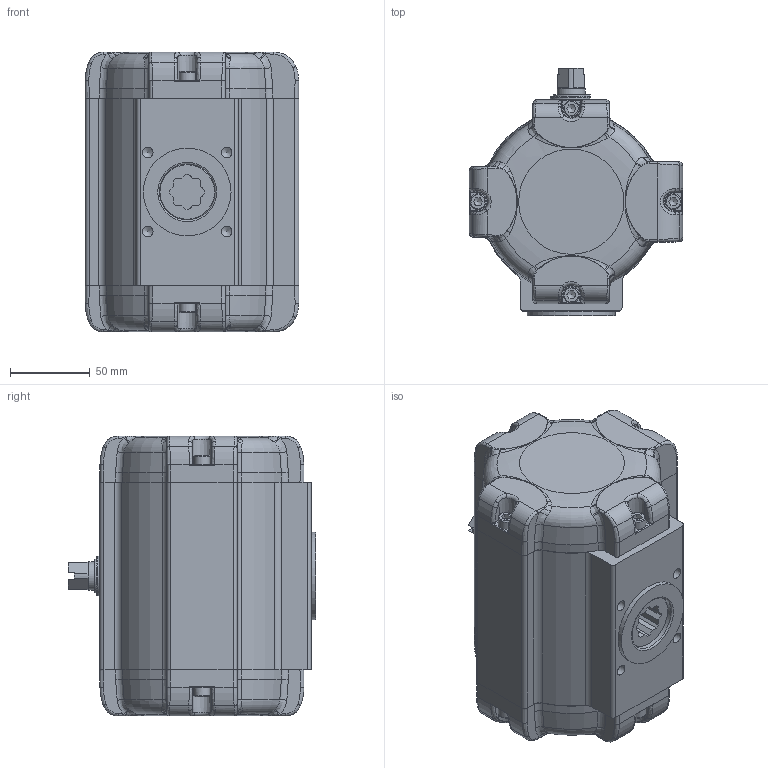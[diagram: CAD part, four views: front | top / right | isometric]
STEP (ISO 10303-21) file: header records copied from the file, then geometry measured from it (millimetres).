
FILE_DESCRIPTION((''),'2;1');
FILE_NAME('C:\Dokumente und Einstellungen\kir\Desktop\STEP IGES\SAD\SAD 20 BR03.stp','2006-12-19T09:20:34',('kir'),(''),'Autodesk Inventor 10','Autodesk Inventor 10','');
FILE_SCHEMA(('AUTOMOTIVE_DESIGN { 1 0 10303 214 1 1 1 1 }'));
Length unit declared in the file: millimetre
Products named in the file (1): ENG-039849
Bounding box: 134 x 155.5 x 175.5 mm (x, y, z)
Volume: 681077.4 mm3; surface area: 199431.9 mm2
Topology: 16 solids, 16 shells, 951 faces, 2361 edges, 1445 vertices
Faces by surface type: bspline 402, plane 257, cylinder 197, cone 58, torus 37
Full cylindrical faces by diameter (mm): 1.7 x2, 4.917 x4, 6 x8, 6.5 x8, 10 x8, 14 x3, 16.7 x1, 17 x1, 17.8 x4, 18 x2, 18.1 x1, 25 x2, 28 x1, 31 x3, 34.8 x3, 55 x1, 100 x1, 103 x1, 110.033 x1, 110.891 x1
Entity records: 87176 total; most frequent: CARTESIAN_POINT 68402, ORIENTED_EDGE 4150, DIRECTION 3178, EDGE_CURVE 2075, VERTEX_POINT 1331, AXIS2_PLACEMENT_3D 1294, EDGE_LOOP 1162, FACE_OUTER_BOUND 951
